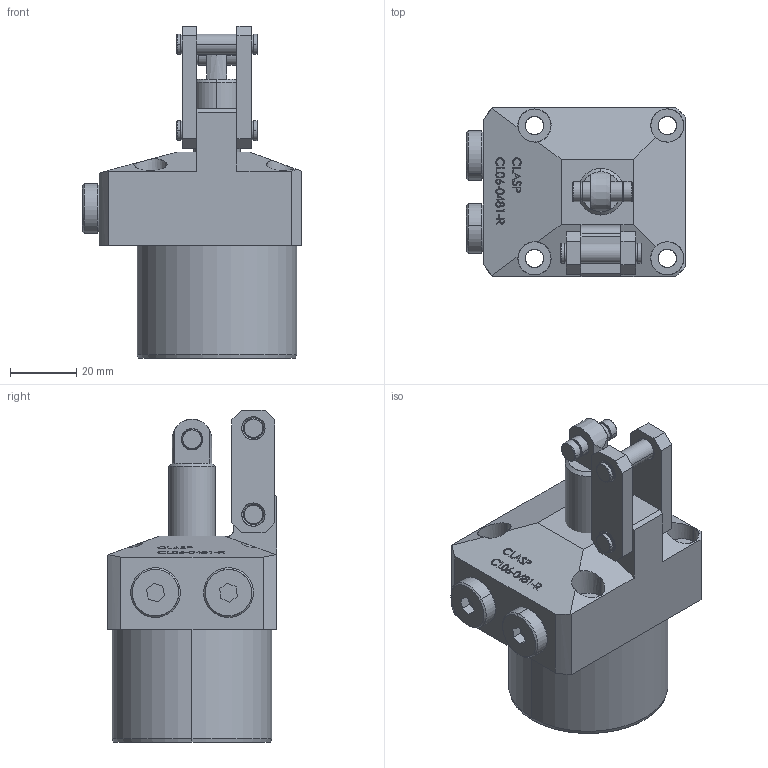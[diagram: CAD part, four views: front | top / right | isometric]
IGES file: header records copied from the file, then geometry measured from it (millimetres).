
Start section: SolidWorks IGES file using analytic representation for surfaces
Global section: file name: D:\karuppas\Clasp\3D model\Link clamp cylinder\CL06-0481-CR\CLO6-0481cr.IGS; native system: SolidWorks 2017; preprocessor: SolidWorks 2017; author: pc; date: 220705.225422; units: millimetre
Bounding box: 66 x 51 x 100 mm (x, y, z)
Surface area: 29104.8 mm2 (no closed solid volume)
Topology: 0 solids, 0 shells, 416 faces, 6048 edges, 6044 vertices
Faces by surface type: bspline 281, revolution 135
